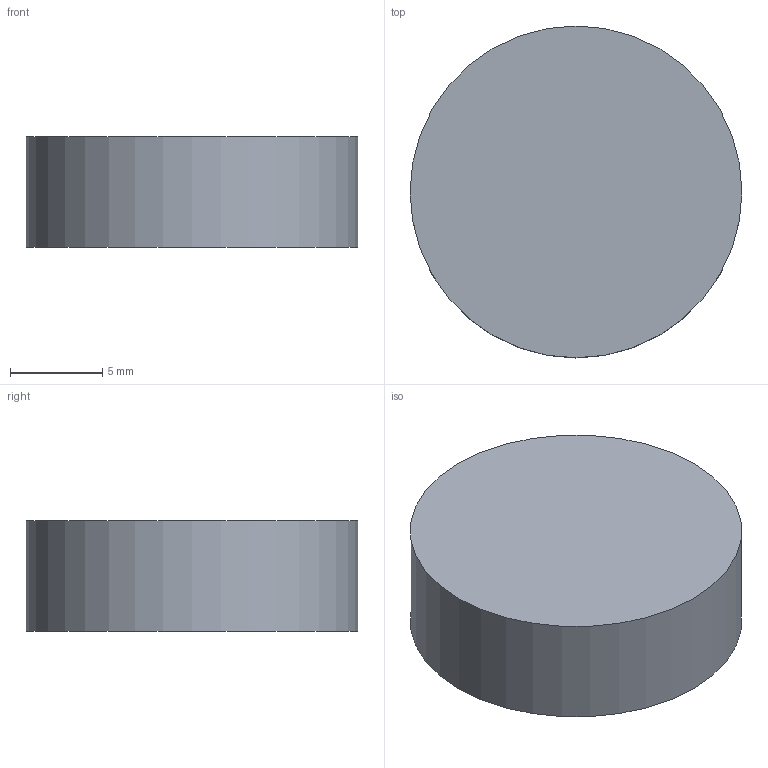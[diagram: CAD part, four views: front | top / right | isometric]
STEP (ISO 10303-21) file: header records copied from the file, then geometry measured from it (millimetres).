
FILE_DESCRIPTION(('FreeCAD Model'),'2;1');
FILE_NAME('Open CASCADE Shape Model','2026-10-19T19:41:49',('FreeCAD'),( 'FreeCAD'),'Open CASCADE STEP processor 7.8','FreeCAD','Unknown');
FILE_SCHEMA(('AUTOMOTIVE_DESIGN { 1 0 10303 214 1 1 1 1 }'));
Length unit declared in the file: millimetre
Products named in the file (1): Open CASCADE STEP translator 7.8 20
Bounding box: 18 x 18 x 6 mm (x, y, z)
Volume: 1526.8 mm3; surface area: 848.2 mm2
Topology: 1 solids, 1 shells, 3 faces, 3 edges, 2 vertices
Faces by surface type: plane 2, cylinder 1
Full cylindrical faces by diameter (mm): 18 x1
Entity records: 69 total; most frequent: DIRECTION 13, CARTESIAN_POINT 9, AXIS2_PLACEMENT_3D 6, ORIENTED_EDGE 6, ADVANCED_FACE 3, FACE_BOUND 3, EDGE_LOOP 3, EDGE_CURVE 3
